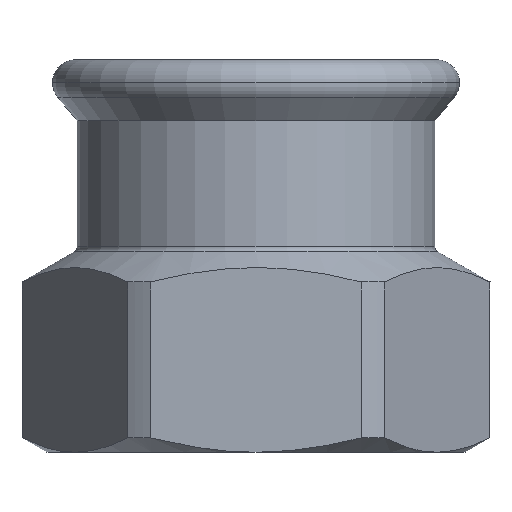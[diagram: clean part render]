
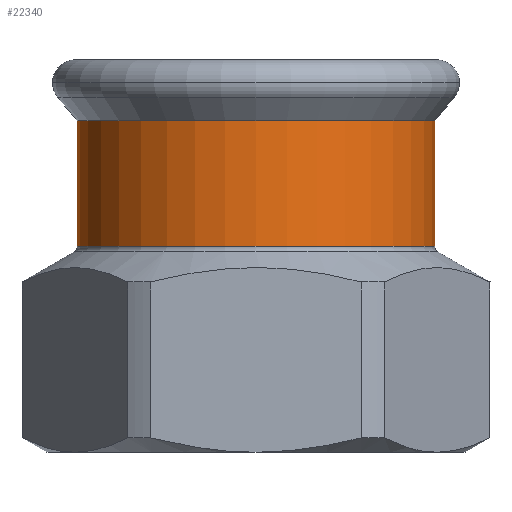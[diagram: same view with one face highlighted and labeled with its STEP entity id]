
A CAD part, front view. The second image highlights one B-rep face of the part: STEP entity #22340.
In plain terms, the highlighted cylindrical face has radius 28.65 mm (diameter 57.3 mm), a partial arc.
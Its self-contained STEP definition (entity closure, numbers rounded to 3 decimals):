
#12920=CARTESIAN_POINT('',(7.506,47.888,32.977));
#12930=VERTEX_POINT('',#12920);
#12960=CARTESIAN_POINT('',(36.156,47.888,32.977));
#12970=DIRECTION('',(0.,0.,-1.));
#12980=DIRECTION('',(-1.,0.,0.));
#12990=AXIS2_PLACEMENT_3D('',#12960,#12970,#12980);
#13000=CIRCLE('',#12990,28.65);
#13010=CARTESIAN_POINT('',(64.806,47.888,32.977));
#13020=VERTEX_POINT('',#13010);
#13030=EDGE_CURVE('',#13020,#12930,#13000,.T.);
#22030=CARTESIAN_POINT('',(36.156,47.888,42.523));
#22040=DIRECTION('',(0.,0.,-1.));
#22050=DIRECTION('',(-1.,0.,0.));
#22060=AXIS2_PLACEMENT_3D('',#22030,#22040,#22050);
#22070=CYLINDRICAL_SURFACE('',#22060,28.65);
#22080=CARTESIAN_POINT('',(7.506,47.888,42.523));
#22090=DIRECTION('',(0.,0.,-1.));
#22100=VECTOR('',#22090,1.);
#22110=LINE('',#22080,#22100);
#22120=CARTESIAN_POINT('',(7.506,47.888,53.146));
#22130=VERTEX_POINT('',#22120);
#22140=EDGE_CURVE('',#22130,#12930,#22110,.T.);
#22150=ORIENTED_EDGE('',*,*,#22140,.T.);
#22160=CARTESIAN_POINT('',(36.156,47.888,53.146));
#22170=DIRECTION('',(0.,0.,1.));
#22180=DIRECTION('',(-1.,0.,0.));
#22190=AXIS2_PLACEMENT_3D('',#22160,#22170,#22180);
#22200=CIRCLE('',#22190,28.65);
#22210=CARTESIAN_POINT('',(64.806,47.888,53.146));
#22220=VERTEX_POINT('',#22210);
#22230=EDGE_CURVE('',#22130,#22220,#22200,.T.);
#22240=ORIENTED_EDGE('',*,*,#22230,.F.);
#22250=CARTESIAN_POINT('',(64.806,47.888,42.523));
#22260=DIRECTION('',(0.,0.,-1.));
#22270=VECTOR('',#22260,1.);
#22280=LINE('',#22250,#22270);
#22290=EDGE_CURVE('',#22220,#13020,#22280,.T.);
#22300=ORIENTED_EDGE('',*,*,#22290,.F.);
#22310=ORIENTED_EDGE('',*,*,#13030,.F.);
#22320=EDGE_LOOP('',(#22310,#22300,#22240,#22150));
#22330=FACE_OUTER_BOUND('',#22320,.T.);
#22340=ADVANCED_FACE('',(#22330),#22070,.T.);
